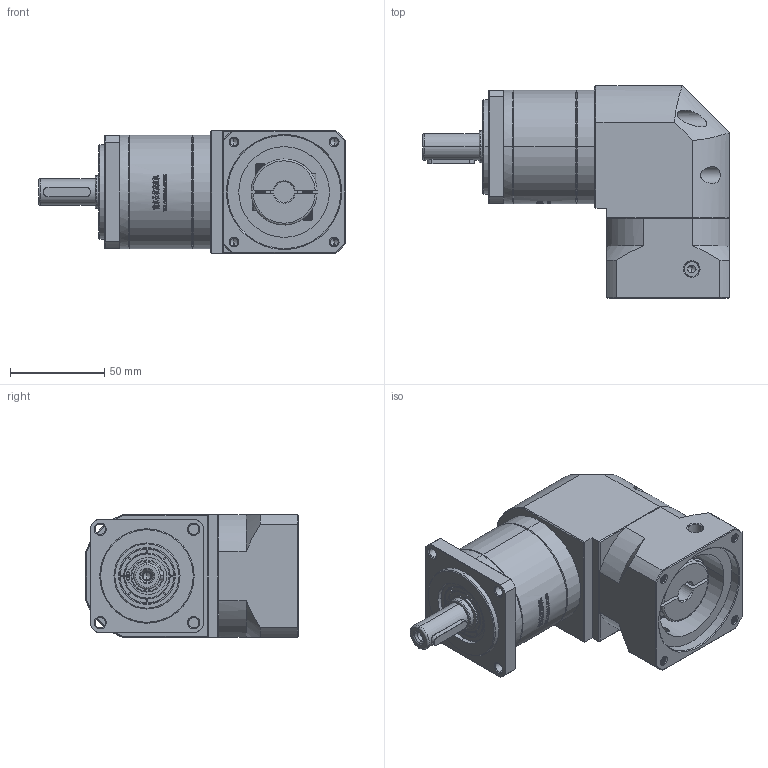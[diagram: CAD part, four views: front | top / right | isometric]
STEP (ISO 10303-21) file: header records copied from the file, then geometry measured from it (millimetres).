
FILE_DESCRIPTION (( 'STEP AP214' ), '1' );
FILE_NAME ('ZFR60-D14-L1-11-60-75-M5.STEP', '2022-04-20T08:54:56', ( '' ), ( 'Microsoft' ), 'SwSTEP 2.0', 'SolidWorks 2016', '' );
FILE_SCHEMA (( 'AUTOMOTIVE_DESIGN' ));
Length unit declared in the file: millimetre
Products named in the file (1): ZFR60-D14-L1-11-60-75-M5
Bounding box: 162.5 x 112.7 x 65 mm (x, y, z)
Volume: 552107.5 mm3; surface area: 80145.3 mm2
Topology: 5 solids, 6 shells, 2692 faces, 7317 edges, 4762 vertices
Faces by surface type: plane 1397, bspline 591, cylinder 402, cone 288, torus 14
Entity records: 149310 total; most frequent: CARTESIAN_POINT 57465, ORIENTED_EDGE 14590, DIRECTION 10446, EDGE_CURVE 7295, VERTEX_POINT 4762, LINE 4400, VECTOR 4400, AXIS2_PLACEMENT_3D 3023
